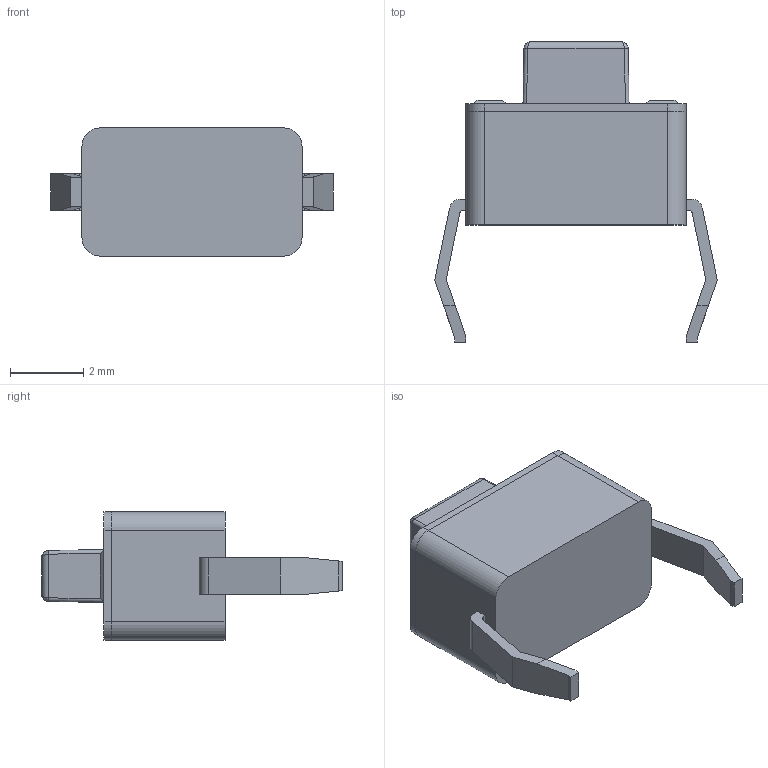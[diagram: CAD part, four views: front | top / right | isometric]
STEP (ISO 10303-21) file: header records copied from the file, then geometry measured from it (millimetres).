
FILE_DESCRIPTION((''),'2;1');
FILE_NAME('JQB3560-C0501-01AG-101_ASM','2026-05-22T10:11:18',('Admin'),(''),'CREO PARAMETRIC BY PTC INC, 2019224','CREO PARAMETRIC BY PTC INC, 2019224','');
FILE_SCHEMA(('AUTOMOTIVE_DESIGN { 1 0 10303 214 1 1 1 1 }'));
Length unit declared in the file: millimetre
Products named in the file (3): JQB3560-C0501-01AG-101_01; JQB3560-C0501-01AG-101_02; JQB3560-C0501-01AG-101_ASM
Assembly tree (2 placements, depth 2):
  JQB3560-C0501-01AG-101_ASM
    JQB3560-C0501-01AG-101_01
    JQB3560-C0501-01AG-101_02
Bounding box: 7.7 x 8.2 x 3.5 mm (x, y, z)
Volume: 78 mm3; surface area: 175.9 mm2
Topology: 2 solids, 2 shells, 99 faces, 252 edges, 164 vertices
Faces by surface type: plane 75, cylinder 20, bspline 4
Entity records: 4257 total; most frequent: CARTESIAN_POINT 797, ORIENTED_EDGE 504, DIRECTION 472, EDGE_CURVE 252, PRESENTATION_STYLE_ASSIGNMENT 226, VECTOR 212, LINE 212, STYLED_ITEM 196
